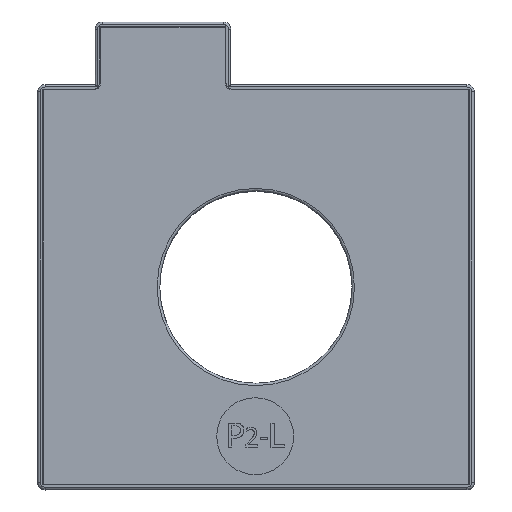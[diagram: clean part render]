
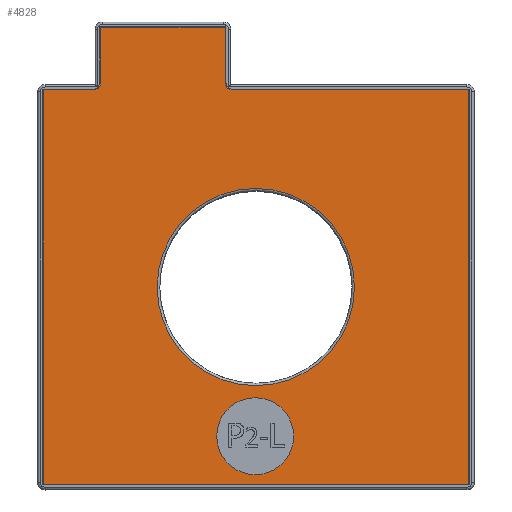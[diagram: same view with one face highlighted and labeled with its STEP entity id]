
A CAD part, top view. The second image highlights one B-rep face of the part: STEP entity #4828.
In plain terms, the highlighted planar face has unit normal (0, 0, 1).
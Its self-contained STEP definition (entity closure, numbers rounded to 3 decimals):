
#500=LINE('',#7340,#1006);
#505=LINE('',#7355,#1011);
#599=LINE('',#7881,#1105);
#600=LINE('',#7882,#1106);
#601=LINE('',#7884,#1107);
#602=LINE('',#7886,#1108);
#603=LINE('',#7888,#1109);
#604=LINE('',#7889,#1110);
#1006=VECTOR('',#6021,10.);
#1011=VECTOR('',#6034,10.);
#1105=VECTOR('',#6200,10.);
#1106=VECTOR('',#6201,10.);
#1107=VECTOR('',#6202,10.);
#1108=VECTOR('',#6203,10.);
#1109=VECTOR('',#6204,10.);
#1110=VECTOR('',#6205,10.);
#1295=PLANE('',#5131);
#1349=FACE_BOUND('',#1888,.T.);
#1350=FACE_BOUND('',#1889,.T.);
#1593=FACE_OUTER_BOUND('',#1887,.T.);
#1887=EDGE_LOOP('',(#4248,#4249,#4250,#4251,#4252,#4253,#4254,#4255,#4256,
#4257));
#1888=EDGE_LOOP('',(#4258));
#1889=EDGE_LOOP('',(#4259));
#1965=CIRCLE('',#5089,1.5);
#1967=CIRCLE('',#5093,1.5);
#1971=CIRCLE('',#5128,20.5);
#1973=CIRCLE('',#5132,8.);
#2290=VERTEX_POINT('',#7330);
#2291=VERTEX_POINT('',#7331);
#2294=VERTEX_POINT('',#7339);
#2296=VERTEX_POINT('',#7345);
#2297=VERTEX_POINT('',#7346);
#2300=VERTEX_POINT('',#7354);
#2390=VERTEX_POINT('',#7874);
#2392=VERTEX_POINT('',#7880);
#2393=VERTEX_POINT('',#7883);
#2394=VERTEX_POINT('',#7885);
#2395=VERTEX_POINT('',#7887);
#2396=VERTEX_POINT('',#7890);
#2872=EDGE_CURVE('',#2290,#2291,#1965,.T.);
#2876=EDGE_CURVE('',#2294,#2291,#500,.T.);
#2879=EDGE_CURVE('',#2296,#2297,#1967,.T.);
#2883=EDGE_CURVE('',#2300,#2297,#505,.T.);
#3017=EDGE_CURVE('',#2390,#2390,#1971,.T.);
#3019=EDGE_CURVE('',#2290,#2392,#599,.T.);
#3020=EDGE_CURVE('',#2392,#2300,#600,.T.);
#3021=EDGE_CURVE('',#2296,#2393,#601,.T.);
#3022=EDGE_CURVE('',#2393,#2394,#602,.T.);
#3023=EDGE_CURVE('',#2394,#2395,#603,.T.);
#3024=EDGE_CURVE('',#2395,#2294,#604,.T.);
#3025=EDGE_CURVE('',#2396,#2396,#1973,.T.);
#4248=ORIENTED_EDGE('',*,*,#2876,.T.);
#4249=ORIENTED_EDGE('',*,*,#2872,.F.);
#4250=ORIENTED_EDGE('',*,*,#3019,.T.);
#4251=ORIENTED_EDGE('',*,*,#3020,.T.);
#4252=ORIENTED_EDGE('',*,*,#2883,.T.);
#4253=ORIENTED_EDGE('',*,*,#2879,.F.);
#4254=ORIENTED_EDGE('',*,*,#3021,.T.);
#4255=ORIENTED_EDGE('',*,*,#3022,.T.);
#4256=ORIENTED_EDGE('',*,*,#3023,.T.);
#4257=ORIENTED_EDGE('',*,*,#3024,.T.);
#4258=ORIENTED_EDGE('',*,*,#3025,.T.);
#4259=ORIENTED_EDGE('',*,*,#3017,.F.);
#4828=ADVANCED_FACE('',(#1593,#1349,#1350),#1295,.T.);
#5089=AXIS2_PLACEMENT_3D('',#7332,#6013,#6014);
#5093=AXIS2_PLACEMENT_3D('',#7347,#6026,#6027);
#5128=AXIS2_PLACEMENT_3D('',#7875,#6192,#6193);
#5131=AXIS2_PLACEMENT_3D('',#7879,#6198,#6199);
#5132=AXIS2_PLACEMENT_3D('',#7891,#6206,#6207);
#6013=DIRECTION('center_axis',(0.,0.,1.));
#6014=DIRECTION('ref_axis',(-0.707,-0.707,0.));
#6021=DIRECTION('',(-1.,0.,0.));
#6026=DIRECTION('center_axis',(0.,0.,1.));
#6027=DIRECTION('ref_axis',(0.707,-0.707,0.));
#6034=DIRECTION('',(0.,-1.,0.));
#6192=DIRECTION('center_axis',(0.,0.,1.));
#6193=DIRECTION('ref_axis',(1.,0.,0.));
#6198=DIRECTION('center_axis',(0.,0.,1.));
#6199=DIRECTION('ref_axis',(1.,0.,0.));
#6200=DIRECTION('',(0.,1.,0.));
#6201=DIRECTION('',(-1.,0.,0.));
#6202=DIRECTION('',(-1.,0.,0.));
#6203=DIRECTION('',(0.,-1.,0.));
#6204=DIRECTION('',(1.,0.,0.));
#6205=DIRECTION('',(0.,1.,0.));
#6206=DIRECTION('center_axis',(0.,0.,-1.));
#6207=DIRECTION('ref_axis',(1.,0.,0.));
#7330=CARTESIAN_POINT('',(-5.653,36.653,55.01));
#7331=CARTESIAN_POINT('',(-4.153,35.153,55.01));
#7332=CARTESIAN_POINT('Origin',(-4.153,36.653,55.01));
#7339=CARTESIAN_POINT('',(44.897,35.153,55.01));
#7340=CARTESIAN_POINT('',(44.897,35.153,55.01));
#7345=CARTESIAN_POINT('',(-33.053,35.153,55.01));
#7346=CARTESIAN_POINT('',(-31.553,36.653,55.01));
#7347=CARTESIAN_POINT('Origin',(-33.053,36.653,55.01));
#7354=CARTESIAN_POINT('',(-31.553,48.103,55.01));
#7355=CARTESIAN_POINT('',(-31.553,48.103,55.01));
#7874=CARTESIAN_POINT('',(-19.802,-5.847,55.01));
#7875=CARTESIAN_POINT('Origin',(0.698,-5.847,55.01));
#7879=CARTESIAN_POINT('Origin',(-0.666,-1.579,55.01));
#7880=CARTESIAN_POINT('',(-5.653,48.103,55.01));
#7881=CARTESIAN_POINT('',(-5.653,35.153,55.01));
#7882=CARTESIAN_POINT('',(-5.653,48.103,55.01));
#7883=CARTESIAN_POINT('',(-43.503,35.153,55.01));
#7884=CARTESIAN_POINT('',(-31.553,35.153,55.01));
#7885=CARTESIAN_POINT('',(-43.502,-46.847,55.01));
#7886=CARTESIAN_POINT('',(-43.503,35.153,55.01));
#7887=CARTESIAN_POINT('',(44.898,-46.847,55.01));
#7888=CARTESIAN_POINT('',(-43.502,-46.847,55.01));
#7889=CARTESIAN_POINT('',(44.898,-46.847,55.01));
#7890=CARTESIAN_POINT('',(-7.419,-36.847,55.01));
#7891=CARTESIAN_POINT('Origin',(0.581,-36.847,55.01));
